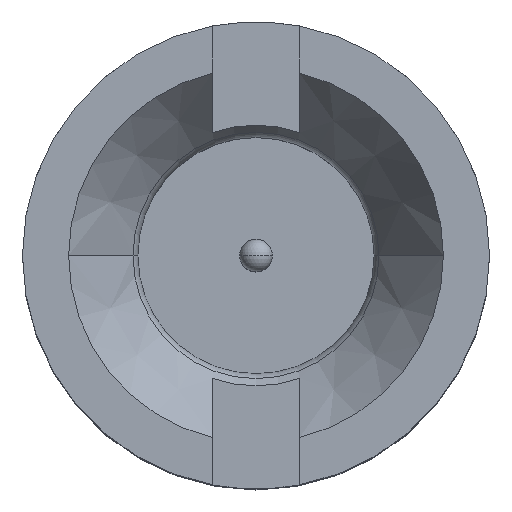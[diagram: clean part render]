
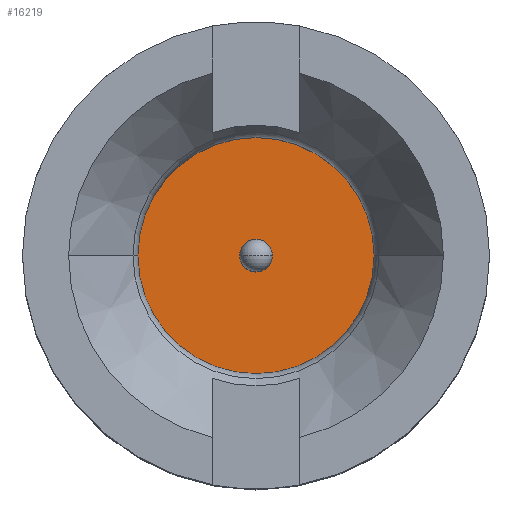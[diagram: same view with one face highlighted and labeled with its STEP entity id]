
A CAD part, top view. The second image highlights one B-rep face of the part: STEP entity #16219.
In plain terms, the highlighted planar face has unit normal (0, 0, 1).
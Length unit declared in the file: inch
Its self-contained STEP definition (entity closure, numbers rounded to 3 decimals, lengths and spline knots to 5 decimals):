
#2148 = VERTEX_POINT ( 'NONE', #9917 ) ;
#3084 = CIRCLE ( 'NONE', #18640, 0.0435 ) ;
#3430 = DIRECTION ( 'NONE',  ( -1., 0., 0. ) ) ;
#3906 = DIRECTION ( 'NONE',  ( 0., 0., 1. ) ) ;
#4589 = ORIENTED_EDGE ( 'NONE', *, *, #20279, .T. ) ;
#5608 = CARTESIAN_POINT ( 'NONE',  ( 0., 0., -0.022 ) ) ;
#5804 = PLANE ( 'NONE',  #17514 ) ;
#5844 = AXIS2_PLACEMENT_3D ( 'NONE', #18616, #20165, #3430 ) ;
#6948 = DIRECTION ( 'NONE',  ( 0., 0., 1. ) ) ;
#7223 = CIRCLE ( 'NONE', #11117, 0.006 ) ;
#8108 = CARTESIAN_POINT ( 'NONE',  ( 0.0435, 0., -0.022 ) ) ;
#9917 = CARTESIAN_POINT ( 'NONE',  ( -0.0435, 0., -0.022 ) ) ;
#10856 = AXIS2_PLACEMENT_3D ( 'NONE', #17883, #16199, #13348 ) ;
#11117 = AXIS2_PLACEMENT_3D ( 'NONE', #5608, #6948, #13719 ) ;
#11329 = ORIENTED_EDGE ( 'NONE', *, *, #20151, .T. ) ;
#11656 = CARTESIAN_POINT ( 'NONE',  ( 0., 0.006, -0.022 ) ) ;
#12671 = EDGE_CURVE ( 'NONE', #21071, #15399, #19624, .T. ) ;
#13125 = EDGE_CURVE ( 'NONE', #15399, #21071, #7223, .T. ) ;
#13348 = DIRECTION ( 'NONE',  ( 1., 0., 0. ) ) ;
#13497 = CARTESIAN_POINT ( 'NONE',  ( 0., -0.006, -0.022 ) ) ;
#13719 = DIRECTION ( 'NONE',  ( -1., 0., 0. ) ) ;
#14037 = CIRCLE ( 'NONE', #10856, 0.0435 ) ;
#14125 = CARTESIAN_POINT ( 'NONE',  ( 0., 0.0435, -0.022 ) ) ;
#14225 = ORIENTED_EDGE ( 'NONE', *, *, #13125, .F. ) ;
#15399 = VERTEX_POINT ( 'NONE', #11656 ) ;
#16199 = DIRECTION ( 'NONE',  ( 0., 0., 1. ) ) ;
#16219 = ADVANCED_FACE ( 'NONE', ( #20963, #17439 ), #5804, .F. ) ;
#17151 = ORIENTED_EDGE ( 'NONE', *, *, #12671, .F. ) ;
#17409 = DIRECTION ( 'NONE',  ( 1., 0., 0. ) ) ;
#17439 = FACE_OUTER_BOUND ( 'NONE', #17810, .T. ) ;
#17514 = AXIS2_PLACEMENT_3D ( 'NONE', #14125, #20857, #21519 ) ;
#17810 = EDGE_LOOP ( 'NONE', ( #11329, #4589 ) ) ;
#17883 = CARTESIAN_POINT ( 'NONE',  ( 0., 0., -0.022 ) ) ;
#18616 = CARTESIAN_POINT ( 'NONE',  ( 0., 0., -0.022 ) ) ;
#18640 = AXIS2_PLACEMENT_3D ( 'NONE', #19080, #3906, #17409 ) ;
#19080 = CARTESIAN_POINT ( 'NONE',  ( 0., 0., -0.022 ) ) ;
#19557 = EDGE_LOOP ( 'NONE', ( #17151, #14225 ) ) ;
#19610 = VERTEX_POINT ( 'NONE', #8108 ) ;
#19624 = CIRCLE ( 'NONE', #5844, 0.006 ) ;
#20151 = EDGE_CURVE ( 'NONE', #19610, #2148, #14037, .T. ) ;
#20165 = DIRECTION ( 'NONE',  ( 0., 0., 1. ) ) ;
#20279 = EDGE_CURVE ( 'NONE', #2148, #19610, #3084, .T. ) ;
#20857 = DIRECTION ( 'NONE',  ( 0., 0., -1. ) ) ;
#20963 = FACE_BOUND ( 'NONE', #19557, .T. ) ;
#21071 = VERTEX_POINT ( 'NONE', #13497 ) ;
#21519 = DIRECTION ( 'NONE',  ( -1., 0., 0. ) ) ;
